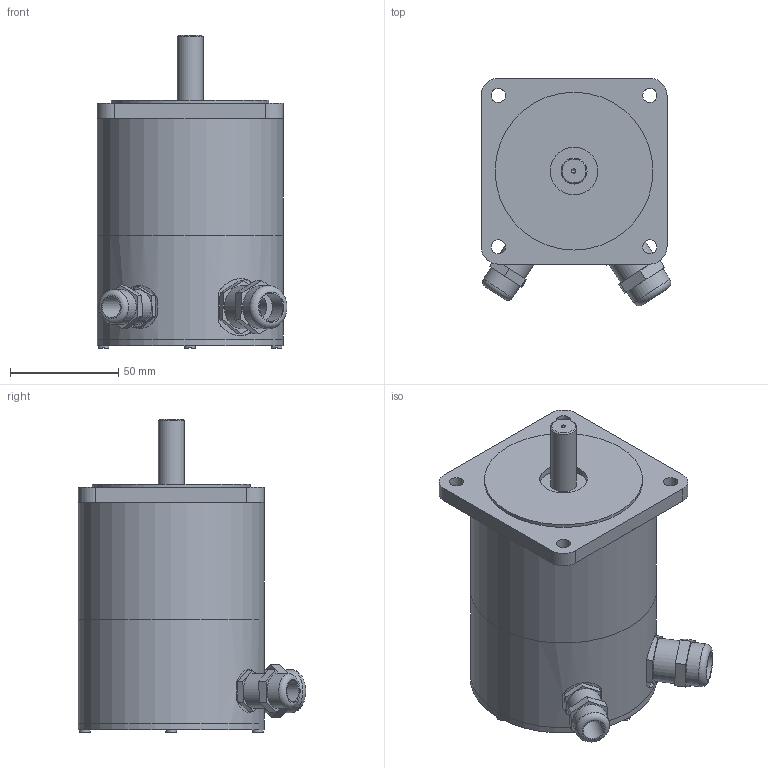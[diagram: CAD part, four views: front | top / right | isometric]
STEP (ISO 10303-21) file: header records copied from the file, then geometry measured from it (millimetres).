
FILE_DESCRIPTION((''),'2;1');
FILE_NAME('C:\Users\Reinhard\Documents\Inventor\Testschrittmotor\SM88\SM88.1-H200-KV.stp','2012-11-11T21:17:30',('Reinhard'),(''),'Autodesk Inventor 2012','Autodesk Inventor 2012','');
FILE_SCHEMA(('CONFIG_CONTROL_DESIGN'));
Length unit declared in the file: millimetre
Products named in the file (1): SM88
Bounding box: 87.8 x 105.15 x 145 mm (x, y, z)
Volume: 162050.3 mm3; surface area: 89809.9 mm2
Topology: 2 solids, 2 shells, 125 faces, 281 edges, 185 vertices
Faces by surface type: plane 79, cylinder 42, torus 2, cone 2
Full cylindrical faces by diameter (mm): 2 x1, 5 x4, 6.6 x4, 10 x1, 12 x3, 13 x2, 15 x1, 16 x2, 18.376 x1, 20 x3, 22 x1, 73 x1, 78 x2, 82 x1, 86 x3
Entity records: 3404 total; most frequent: CARTESIAN_POINT 674, DIRECTION 568, ORIENTED_EDGE 476, EDGE_CURVE 238, AXIS2_PLACEMENT_3D 218, EDGE_LOOP 198, VERTEX_POINT 176, VECTOR 132
